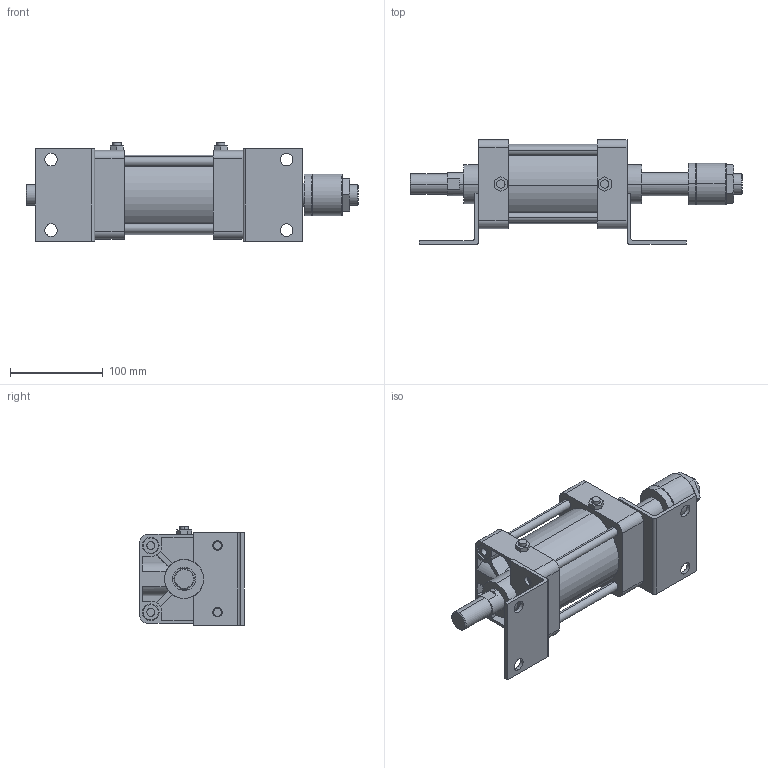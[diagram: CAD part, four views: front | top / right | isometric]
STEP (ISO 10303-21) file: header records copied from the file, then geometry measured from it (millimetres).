
FILE_DESCRIPTION (( 'STEP AP203' ), '1' );
FILE_NAME ('KGA7-80#-50-L.STEP', '2016-04-14T07:53:36', ( '' ), ( '' ), 'SwSTEP 2.0', 'SolidWorks 2014', '' );
FILE_SCHEMA (( 'CONFIG_CONTROL_DESIGN' ));
Length unit declared in the file: millimetre
Products named in the file (9): KGLH2-80-50; KGA7-80#-50-L; K-80-L; K#7-80-50-After; KGA7-80-Turn
Assembly tree (19 placements, depth 2):
  KGA7-80#-50-L
    K#7-80-50-After
    KGLH2-80-50
    (unnamed)
    (unnamed)  x4
    (unnamed)  x8
    K-80-L  x2
    KGA7-80-Turn
    (unnamed)
Bounding box: 358 x 113 x 106.3 mm (x, y, z)
Volume: 1257431.5 mm3; surface area: 242192.7 mm2
Topology: 19 solids, 19 shells, 401 faces, 948 edges, 604 vertices
Faces by surface type: plane 171, cylinder 156, torus 46, cone 28
Entity records: 10101 total; most frequent: CARTESIAN_POINT 1815, DIRECTION 1554, ORIENTED_EDGE 1408, EDGE_CURVE 704, AXIS2_PLACEMENT_3D 589, VERTEX_POINT 458, VECTOR 376, LINE 376
